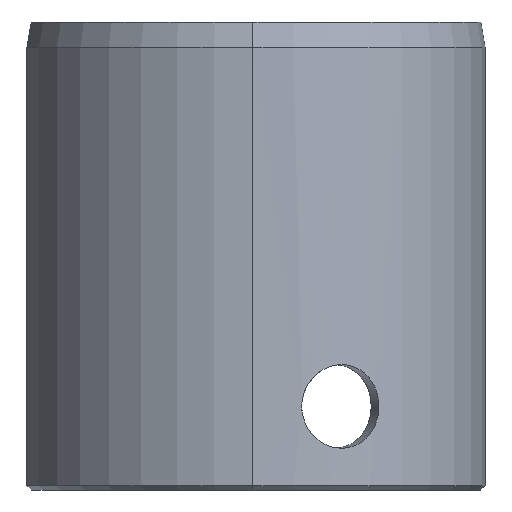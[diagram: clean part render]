
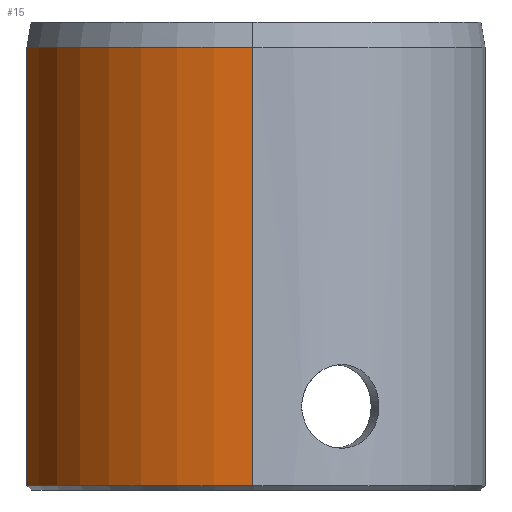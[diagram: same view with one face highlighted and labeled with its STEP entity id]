
A CAD part, left-side view. The second image highlights one B-rep face of the part: STEP entity #15.
In plain terms, the highlighted cylindrical face has radius 27.781 mm (diameter 55.562 mm), a partial arc.
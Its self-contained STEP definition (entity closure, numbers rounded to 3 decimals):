
#4 = DIRECTION ( 'NONE',  ( 1., 0., 0. ) ) ;
#7 = ORIENTED_EDGE ( 'NONE', *, *, #95, .F. ) ;
#9 = FACE_OUTER_BOUND ( 'NONE', #70, .T. ) ;
#15 = ADVANCED_FACE ( 'NONE', ( #9 ), #183, .T. ) ;
#70 = EDGE_LOOP ( 'NONE', ( #7, #355, #931, #1003 ) ) ;
#83 = CIRCLE ( 'NONE', #475, 27.781 ) ;
#95 = EDGE_CURVE ( 'NONE', #126, #1099, #340, .T. ) ;
#107 = DIRECTION ( 'NONE',  ( 0., 0., -1. ) ) ;
#126 = VERTEX_POINT ( 'NONE', #833 ) ;
#139 = CARTESIAN_POINT ( 'NONE',  ( 0., 0., 28. ) ) ;
#146 = DIRECTION ( 'NONE',  ( -1., 0., 0. ) ) ;
#155 = DIRECTION ( 'NONE',  ( 0., 0., -1. ) ) ;
#161 = CARTESIAN_POINT ( 'NONE',  ( -6.35, 27.046, -27.5 ) ) ;
#164 = CARTESIAN_POINT ( 'NONE',  ( -6.35, 27.046, 28. ) ) ;
#183 = CYLINDRICAL_SURFACE ( 'NONE', #821, 27.781 ) ;
#228 = CARTESIAN_POINT ( 'NONE',  ( 0., 0., -27.5 ) ) ;
#340 = LINE ( 'NONE', #694, #764 ) ;
#345 = VERTEX_POINT ( 'NONE', #161 ) ;
#355 = ORIENTED_EDGE ( 'NONE', *, *, #491, .T. ) ;
#364 = CIRCLE ( 'NONE', #417, 27.781 ) ;
#417 = AXIS2_PLACEMENT_3D ( 'NONE', #228, #757, #4 ) ;
#437 = EDGE_CURVE ( 'NONE', #345, #1099, #364, .T. ) ;
#475 = AXIS2_PLACEMENT_3D ( 'NONE', #964, #697, #595 ) ;
#480 = LINE ( 'NONE', #164, #617 ) ;
#491 = EDGE_CURVE ( 'NONE', #126, #1032, #83, .T. ) ;
#595 = DIRECTION ( 'NONE',  ( 1., 0., 0. ) ) ;
#617 = VECTOR ( 'NONE', #107, 1000. ) ;
#694 = CARTESIAN_POINT ( 'NONE',  ( -27.781, 0., 28. ) ) ;
#697 = DIRECTION ( 'NONE',  ( 0., 0., -1. ) ) ;
#698 = CARTESIAN_POINT ( 'NONE',  ( -27.781, 0., -27.5 ) ) ;
#757 = DIRECTION ( 'NONE',  ( 0., 0., 1. ) ) ;
#764 = VECTOR ( 'NONE', #803, 1000. ) ;
#803 = DIRECTION ( 'NONE',  ( 0., 0., -1. ) ) ;
#813 = EDGE_CURVE ( 'NONE', #1032, #345, #480, .T. ) ;
#821 = AXIS2_PLACEMENT_3D ( 'NONE', #139, #155, #146 ) ;
#827 = CARTESIAN_POINT ( 'NONE',  ( -6.35, 27.046, 25. ) ) ;
#833 = CARTESIAN_POINT ( 'NONE',  ( -27.781, 0., 25. ) ) ;
#931 = ORIENTED_EDGE ( 'NONE', *, *, #813, .T. ) ;
#964 = CARTESIAN_POINT ( 'NONE',  ( 0., 0., 25. ) ) ;
#1003 = ORIENTED_EDGE ( 'NONE', *, *, #437, .T. ) ;
#1032 = VERTEX_POINT ( 'NONE', #827 ) ;
#1099 = VERTEX_POINT ( 'NONE', #698 ) ;
